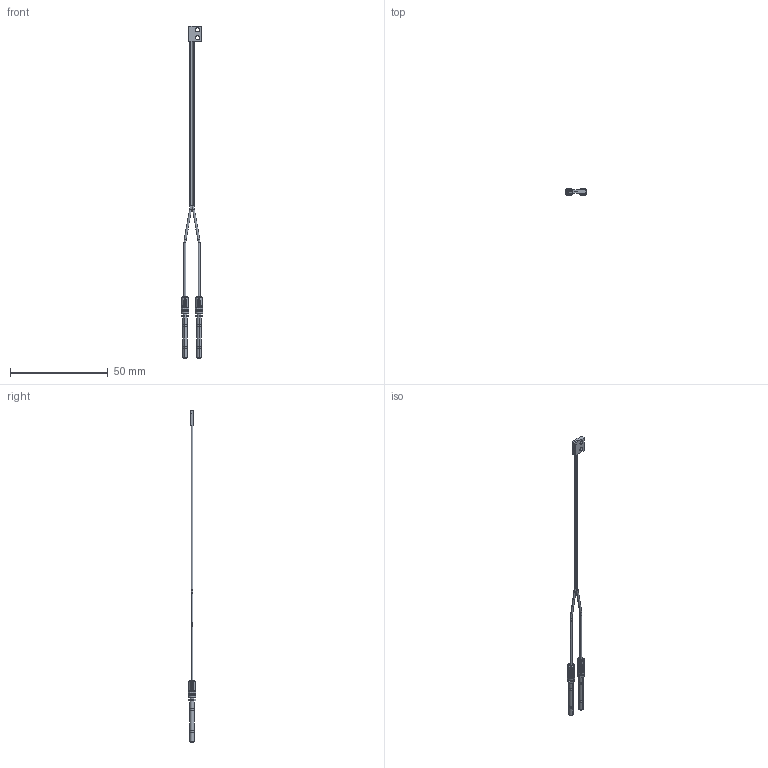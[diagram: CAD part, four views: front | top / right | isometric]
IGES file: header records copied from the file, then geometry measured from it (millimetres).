
Start section: SolidWorks IGES file using analytic representation for surfaces
Bounding box: 11.2 x 4 x 170.01 mm (x, y, z)
Surface area: 1999.1 mm2 (no closed solid volume)
Topology: 0 solids, 0 shells, 216 faces, 1846 edges, 1846 vertices
Faces by surface type: bspline 132, revolution 84
